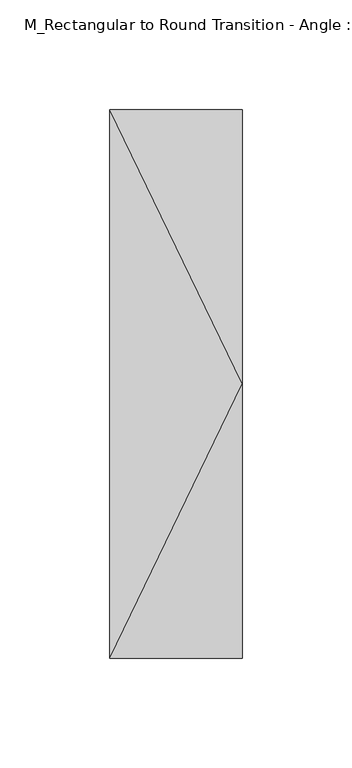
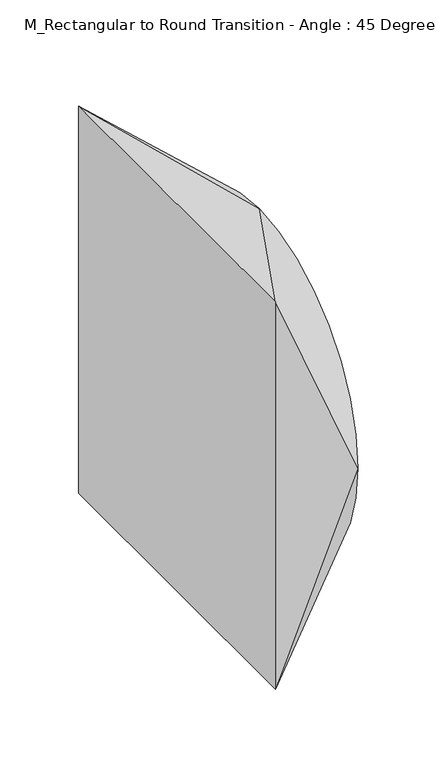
"""IFC4 building model written with IfcOpenShell, lengths in millimetres: duct fitting geometry, M_Rectangular to Round Transition - Angle : 45 Degree."""

from ifc_helpers import new_model, si_unit, frame, origin, place, context, project, spatial, circle_curve, source, transform, mapped, element, save
from ifc_brep_helpers import plane_surface, spline_surface, advanced_brep


def m_rectangular_to_round_transition_angle_45_degree_93fd9755(model_context):
    return source(origin(), model_context, "Body", "AdvancedBrep", [
        advanced_brep(
        [(60.3553391, 0.0, 125.0), (60.3553391, -125.0, 0.0), (60.3553391, 0.0, -125.0), (60.3553391, 125.0, 0.0), (0.0, -125.0, 150.0), (0.0, 125.0, 150.0), (0.0, 125.0, -150.0), (0.0, -125.0, -150.0)],
        [
            (0, 1, circle_curve(frame((60.3553391, 0.0, 0.0), z_axis=(1.0, 0.0, 0.0), x_axis=(0.0, 1.0, 0.0)), 125.0)),
            (1, 2, circle_curve(frame((60.3553391, 0.0, 0.0), z_axis=(1.0, 0.0, 0.0), x_axis=(0.0, 1.0, 0.0)), 125.0)),
            (2, 3, circle_curve(frame((60.3553391, 0.0, 0.0), z_axis=(1.0, 0.0, 0.0), x_axis=(0.0, 1.0, 0.0)), 125.0)),
            (3, 0, circle_curve(frame((60.3553391, 0.0, 0.0), z_axis=(1.0, 0.0, 0.0), x_axis=(0.0, 1.0, 0.0)), 125.0)),
            (4, 5),
            (5, 6),
            (6, 7),
            (7, 4),
            (0, 4),
            (4, 1),
            (7, 1),
            (7, 2),
            (6, 2),
            (6, 3),
            (5, 3),
            (5, 0),
        ],
        [
            plane_surface(frame((60.3553391, 0.0, 0.0), z_axis=(1.0, 0.0, 0.0), x_axis=(0.0, 0.0, -1.0))),
            plane_surface(frame((0.0, 0.0, 0.0), z_axis=(-1.0, 0.0, 0.0), x_axis=(0.0, 0.0, -1.0))),
            spline_surface(2, 1, [[(0.0, -125.0, 150.0), (60.3553391, 0.0, 125.0)], [(0.0, -125.0, 150.0), (60.3553391, -125.0, 125.0)], [(0.0, -125.0, 150.0), (60.3553391, -125.0, 0.0)]], [3, 3], [2, 2], [0.0, 1.0], [0.0, 1.0], weights=[[1.0, 1.0], [0.7071067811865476, 0.7071067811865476], [1.0, 1.0]]),
            plane_surface(frame((0.0, -125.0, 0.0), z_axis=(0.0, -1.0, 0.0), x_axis=(0.0, 0.0, -1.0))),
            spline_surface(2, 1, [[(0.0, -125.0, -150.0), (60.3553391, -125.0, 0.0)], [(0.0, -125.0, -150.0), (60.3553391, -125.0, -125.0)], [(0.0, -125.0, -150.0), (60.3553391, 0.0, -125.0)]], [3, 3], [2, 2], [0.0, 1.0], [0.0, 1.0], weights=[[1.0, 1.0], [0.7071067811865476, 0.7071067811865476], [1.0, 1.0]]),
            plane_surface(frame((0.0, 0.0, -150.0), z_axis=(0.3826834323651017, 0.0, -0.9238795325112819), x_axis=(0.0, 1.0, 0.0))),
            spline_surface(2, 1, [[(0.0, 125.0, -150.0), (60.3553391, 0.0, -125.0)], [(0.0, 125.0, -150.0), (60.3553391, 125.0, -125.0)], [(0.0, 125.0, -150.0), (60.3553391, 125.0, 0.0)]], [3, 3], [2, 2], [0.0, 1.0], [0.0, 1.0], weights=[[1.0, 1.0], [0.7071067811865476, 0.7071067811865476], [1.0, 1.0]]),
            plane_surface(frame((0.0, 125.0, 0.0), z_axis=(0.0, 1.0, 0.0), x_axis=(0.0, 0.0, 1.0))),
            spline_surface(2, 1, [[(0.0, 125.0, 150.0), (60.3553391, 125.0, 0.0)], [(0.0, 125.0, 150.0), (60.3553391, 125.0, 125.0)], [(0.0, 125.0, 150.0), (60.3553391, 0.0, 125.0)]], [3, 3], [2, 2], [0.0, 1.0], [0.0, 1.0], weights=[[1.0, 1.0], [0.7071067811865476, 0.7071067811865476], [1.0, 1.0]]),
            plane_surface(frame((0.0, 0.0, 150.0), z_axis=(0.3826834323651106, 0.0, 0.9238795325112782), x_axis=(0.0, -1.0, 0.0))),
        ],
        [
            (0, [[1, 2, 3, 4]]),
            (1, [[5, 6, 7, 8]]),
            (2, [[-1, 9, 10]]),
            (3, [[-8, 11, -10]]),
            (4, [[-2, -11, 12]]),
            (5, [[-7, 13, -12]]),
            (6, [[-3, -13, 14]]),
            (7, [[-6, 15, -14]]),
            (8, [[-4, -15, 16]]),
            (9, [[-5, -9, -16]]),
        ],
    ),
    ])


if __name__ == "__main__":
    model = new_model("IFC4")
    model_context = context("Model", 3, world=origin())
    ifc_project = project(units=[si_unit("LENGTHUNIT", "METRE", prefix="MILLI")], contexts=[model_context])
    site = spatial("IfcSite", under=ifc_project)
    building = spatial("IfcBuilding", under=site)
    placement = place(None, origin())
    m_rectangular_to_round_transition_angle_45_degree_shape = m_rectangular_to_round_transition_angle_45_degree_93fd9755(model_context)
    element("IfcDuctFitting", 1, ObjectType="M_Rectangular to Round Transition - Angle : 45 Degree", at=placement, inside=building, context=model_context, shape_type="MappedRepresentation", body=[
        mapped(m_rectangular_to_round_transition_angle_45_degree_shape, transform((0.0, 0.0, 0.0), x_axis=(1.0, 0.0, 0.0), y_axis=(0.0, 1.0, 0.0), z_axis=(0.0, 0.0, 1.0))),
    ])
    save(model, "model.ifc")
